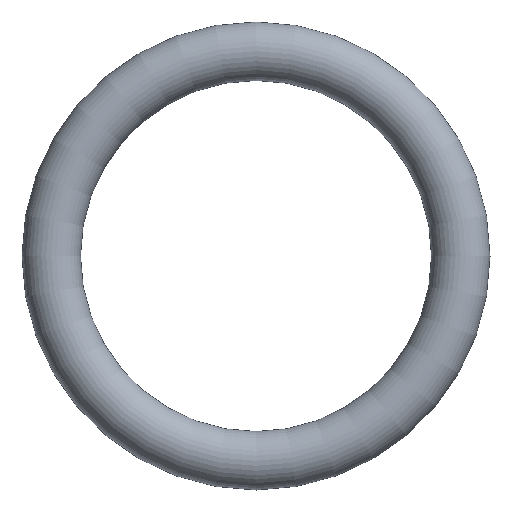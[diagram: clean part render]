
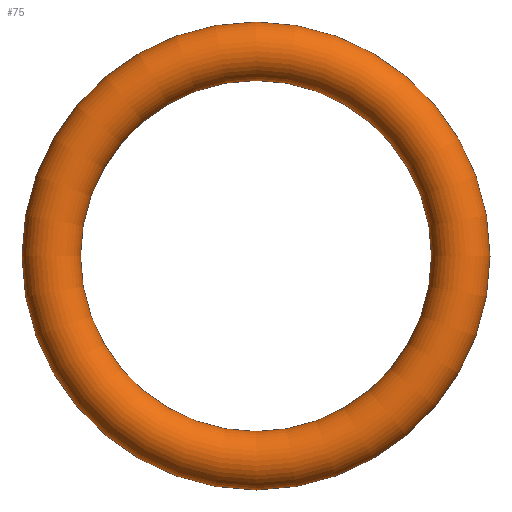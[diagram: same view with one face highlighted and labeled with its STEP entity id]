
A CAD part, front view. The second image highlights one B-rep face of the part: STEP entity #75.
In plain terms, the highlighted toroidal (fillet/blend) face has major radius 5.25 mm and minor radius 0.75 mm.
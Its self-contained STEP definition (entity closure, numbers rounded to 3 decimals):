
#75 = ADVANCED_FACE( '', ( #77 ), #78, .T. );
#77 = FACE_BOUND( '', #79, .T. );
#78 = TOROIDAL_SURFACE( '', #80, 5.25, 0.75 );
#79 = VERTEX_LOOP( '', #81 );
#80 = AXIS2_PLACEMENT_3D( '', #82, #83, #84 );
#81 = VERTEX_POINT( '', #85 );
#82 = CARTESIAN_POINT( '', ( 0., 0., 0. ) );
#83 = DIRECTION( '', ( 0., -1., 0. ) );
#84 = DIRECTION( '', ( 0., 0., -1. ) );
#85 = CARTESIAN_POINT( '', ( 0., 0., -6. ) );
